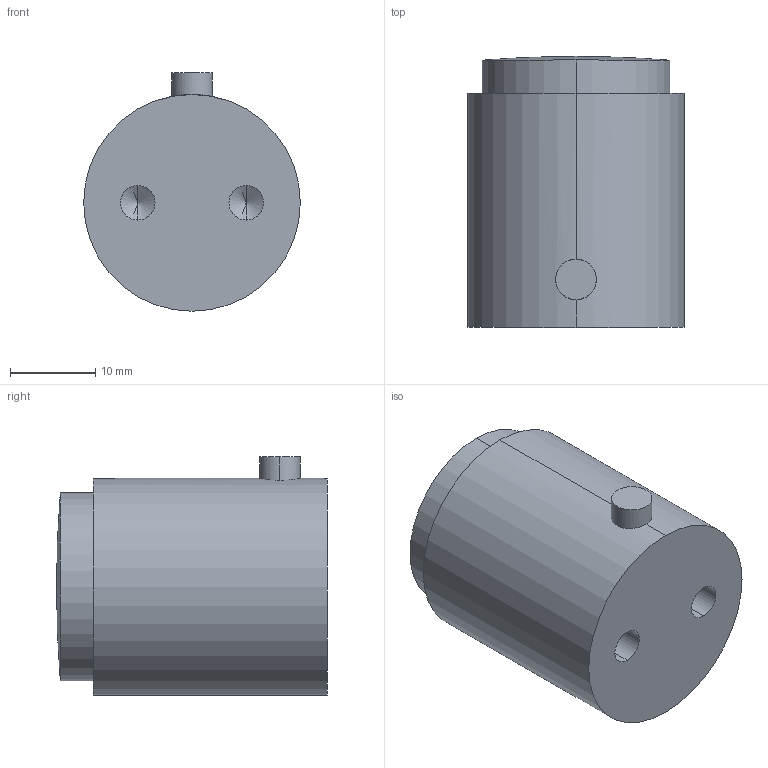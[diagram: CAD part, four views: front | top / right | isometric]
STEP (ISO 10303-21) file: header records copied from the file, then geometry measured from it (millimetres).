
FILE_DESCRIPTION (( 'STEP AP214' ), '1' );
FILE_NAME ('TT50-10KLB.STEP', '2024-08-23T18:32:29', ( '' ), ( '' ), 'SwSTEP 2.0', 'SolidWorks 2008', '' );
FILE_SCHEMA (( 'AUTOMOTIVE_DESIGN' ));
Length unit declared in the file: inch
Products named in the file (1): TT50-10KLB
Bounding box: 25.4 x 31.75 x 27.94 mm (x, y, z)
Volume: 15367.4 mm3; surface area: 3644.3 mm2
Topology: 1 solids, 1 shells, 19 faces, 45 edges, 27 vertices
Faces by surface type: cylinder 10, cone 4, plane 3, sphere 2
Entity records: 662 total; most frequent: CARTESIAN_POINT 150, DIRECTION 99, ORIENTED_EDGE 82, AXIS2_PLACEMENT_3D 42, EDGE_CURVE 41, VERTEX_POINT 27, CIRCLE 22, EDGE_LOOP 22
